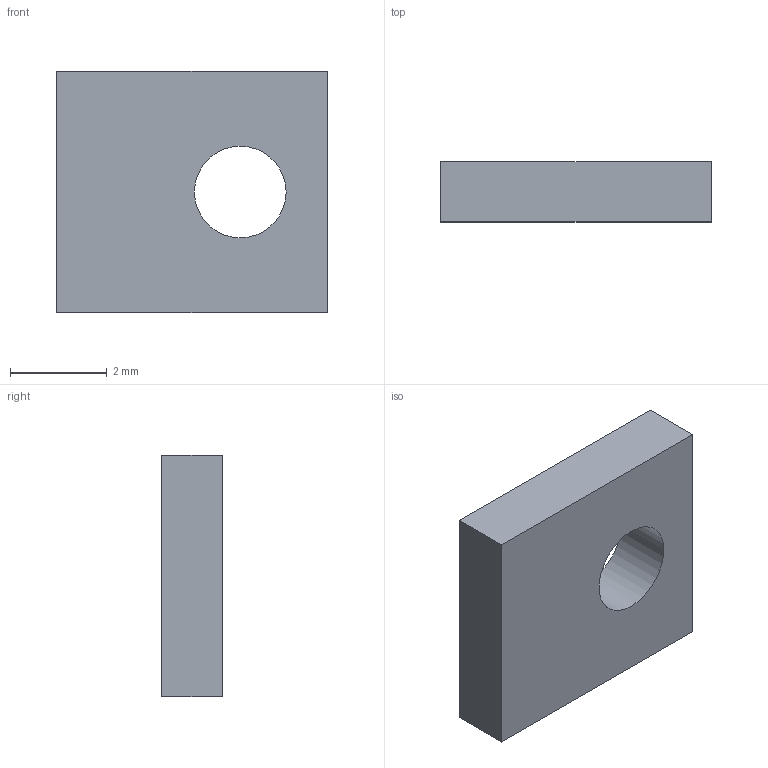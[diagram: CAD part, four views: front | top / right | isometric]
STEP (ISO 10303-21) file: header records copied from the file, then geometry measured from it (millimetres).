
FILE_DESCRIPTION(('Open CASCADE Model'),'2;1');
FILE_NAME('Open CASCADE Shape Model','2026-10-19T03:30:13',('Author'),( 'Open CASCADE'),'Open CASCADE STEP processor 7.9','Open CASCADE 7.9' ,'Unknown');
FILE_SCHEMA(('AUTOMOTIVE_DESIGN { 1 0 10303 214 1 1 1 1 }'));
Length unit declared in the file: millimetre
Products named in the file (1): Open CASCADE STEP translator 7.9 7
Bounding box: 5.6 x 1.25 x 5 mm (x, y, z)
Volume: 31.5 mm3; surface area: 84.3 mm2
Topology: 1 solids, 1 shells, 7 faces, 15 edges, 10 vertices
Faces by surface type: plane 6, cylinder 1
Full cylindrical faces by diameter (mm): 1.9 x1
Entity records: 400 total; most frequent: CARTESIAN_POINT 63, DIRECTION 63, LINE 41, VECTOR 41, ORIENTED_EDGE 30, PCURVE 30, DEFINITIONAL_REPRESENTATION 30, EDGE_CURVE 15
